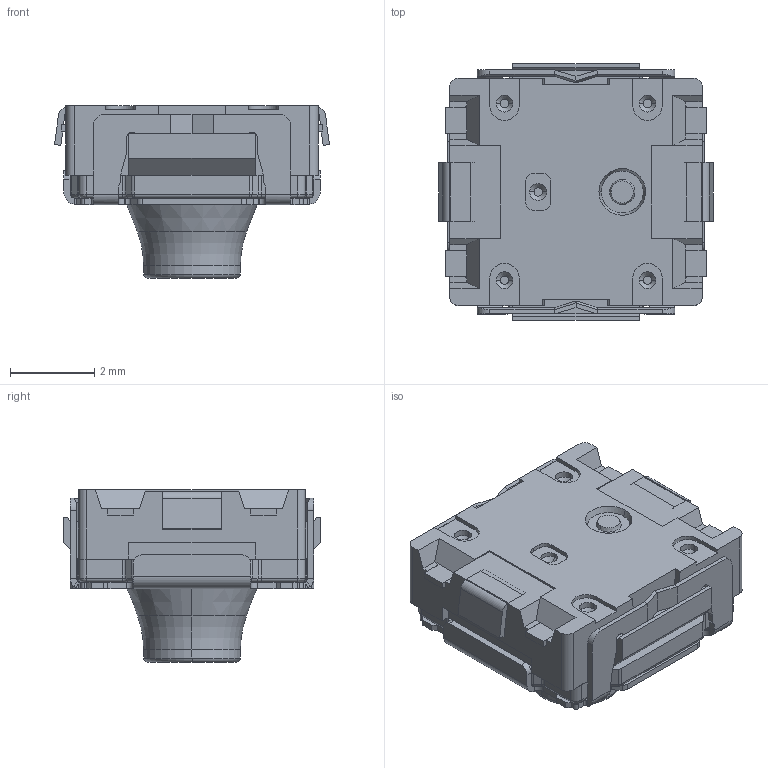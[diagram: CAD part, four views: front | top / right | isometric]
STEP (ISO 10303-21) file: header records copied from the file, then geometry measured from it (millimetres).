
FILE_DESCRIPTION((''),'2;1');
FILE_NAME('JQH6162FP-G0416-01G-1-158_ASM','2026-07-20T18:42:58',('Admin'),(''),'CREO PARAMETRIC BY PTC INC, 2019224','CREO PARAMETRIC BY PTC INC, 2019224','');
FILE_SCHEMA(('AUTOMOTIVE_DESIGN { 1 0 10303 214 1 1 1 1 }'));
Length unit declared in the file: millimetre
Products named in the file (2): JQH6162FP-G0416-01G-1-158_01; JQH6162FP-G0416-01G-1-158_ASM
Assembly tree (1 placements, depth 2):
  JQH6162FP-G0416-01G-1-158_ASM
    JQH6162FP-G0416-01G-1-158_01
Bounding box: 6.54 x 6.1 x 4.1 mm (x, y, z)
Volume: 37.2 mm3; surface area: 365.1 mm2
Topology: 3 solids, 4 shells, 973 faces, 2665 edges, 1708 vertices
Faces by surface type: plane 534, cylinder 321, cone 64, bspline 28, torus 14, sphere 12
Entity records: 37566 total; most frequent: CARTESIAN_POINT 6633, ORIENTED_EDGE 5322, DIRECTION 5241, EDGE_CURVE 2664, VECTOR 1749, LINE 1749, AXIS2_PLACEMENT_3D 1746, VERTEX_POINT 1706
